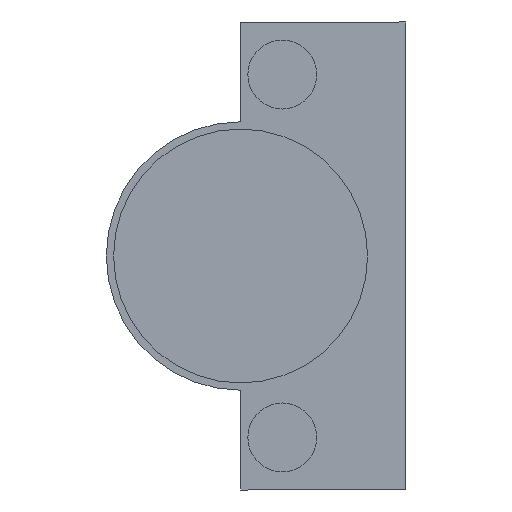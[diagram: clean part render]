
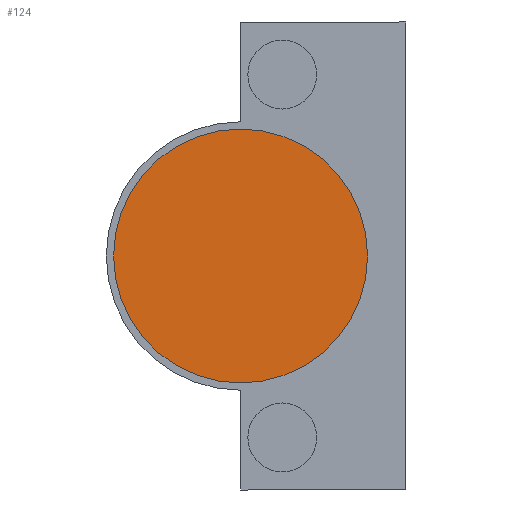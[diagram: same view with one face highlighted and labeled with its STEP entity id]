
A CAD part, front view. The second image highlights one B-rep face of the part: STEP entity #124.
In plain terms, the highlighted planar face has unit normal (0, -1, 0).
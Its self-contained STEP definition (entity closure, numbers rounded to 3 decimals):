
#47 = VERTEX_POINT ( 'NONE', #209 ) ;
#50 = VERTEX_POINT ( 'NONE', #212 ) ;
#90 = CIRCLE ( 'NONE', #983, 17.5 ) ;
#124 = ADVANCED_FACE ( 'NONE', ( #1443 ), #354, .T. ) ;
#209 = CARTESIAN_POINT ( 'NONE',  ( -15., -12.6, 0. ) ) ;
#212 = CARTESIAN_POINT ( 'NONE',  ( 20., -12.6, 0. ) ) ;
#353 = CARTESIAN_POINT ( 'NONE',  ( 2.5, -12.6, 0. ) ) ;
#354 = PLANE ( 'NONE',  #1056 ) ;
#356 = DIRECTION ( 'NONE',  ( 0., -1., 0. ) ) ;
#357 = DIRECTION ( 'NONE',  ( 1., 0., 0. ) ) ;
#617 = CARTESIAN_POINT ( 'NONE',  ( 2.5, -12.6, 0. ) ) ;
#618 = DIRECTION ( 'NONE',  ( 0., -1., 0. ) ) ;
#619 = DIRECTION ( 'NONE',  ( 1., 0., 0. ) ) ;
#743 = CARTESIAN_POINT ( 'NONE',  ( 2.5, -12.6, 0. ) ) ;
#747 = DIRECTION ( 'NONE',  ( 0., -1., 0. ) ) ;
#748 = DIRECTION ( 'NONE',  ( 1., 0., 0. ) ) ;
#841 = CIRCLE ( 'NONE', #992, 17.5 ) ;
#918 = EDGE_CURVE ( 'NONE', #50, #47, #90, .T. ) ;
#983 = AXIS2_PLACEMENT_3D ( 'NONE', #617, #618, #619 ) ;
#992 = AXIS2_PLACEMENT_3D ( 'NONE', #743, #747, #748 ) ;
#1039 = EDGE_CURVE ( 'NONE', #47, #50, #841, .T. ) ;
#1056 = AXIS2_PLACEMENT_3D ( 'NONE', #353, #356, #357 ) ;
#1123 = ORIENTED_EDGE ( 'NONE', *, *, #918, .T. ) ;
#1124 = ORIENTED_EDGE ( 'NONE', *, *, #1039, .T. ) ;
#1342 = EDGE_LOOP ( 'NONE', ( #1124, #1123 ) ) ;
#1443 = FACE_OUTER_BOUND ( 'NONE', #1342, .T. ) ;
